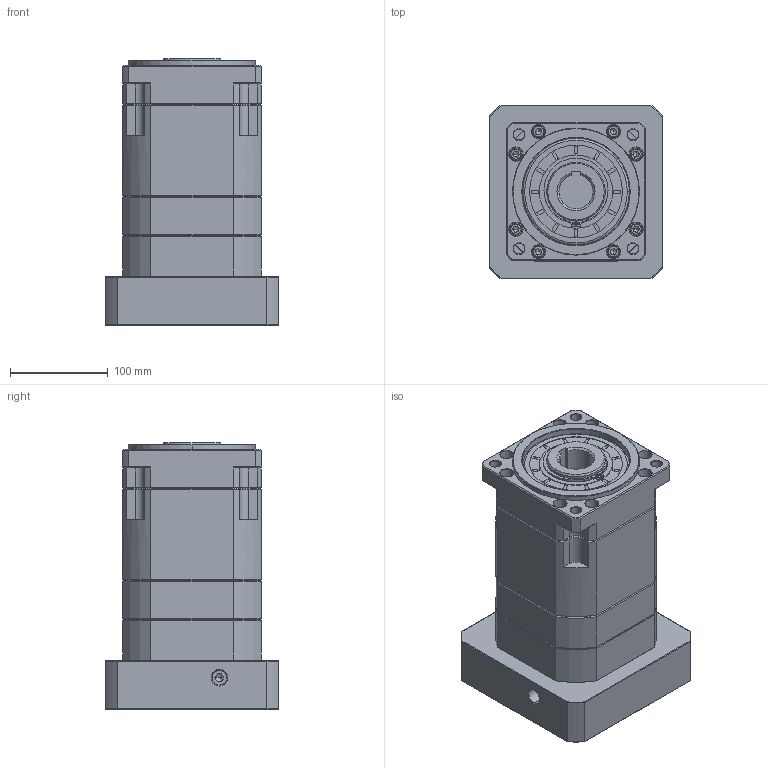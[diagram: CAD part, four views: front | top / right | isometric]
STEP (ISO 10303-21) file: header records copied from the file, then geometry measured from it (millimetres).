
FILE_DESCRIPTION (( 'STEP AP214' ), '1' );
FILE_NAME ('ZB142A-K35-L3-35-114.3-200-M12.step', '2023-03-17T10:50:41', ( '' ), ( '' ), 'SwSTEP 2.0', 'SolidWorks 2016', '' );
FILE_SCHEMA (( 'AUTOMOTIVE_DESIGN' ));
Length unit declared in the file: millimetre
Products named in the file (1): ZB142A-K35-L3-35-114.3-200-M12
Bounding box: 178 x 178 x 273.2 mm (x, y, z)
Volume: 4903985.2 mm3; surface area: 386291.7 mm2
Topology: 6 solids, 6 shells, 2161 faces, 5665 edges, 3610 vertices
Faces by surface type: plane 1018, cylinder 424, cone 393, bspline 306, torus 20
Entity records: 114804 total; most frequent: CARTESIAN_POINT 40039, ORIENTED_EDGE 11274, DIRECTION 9553, EDGE_CURVE 5637, VERTEX_POINT 3610, LINE 3511, VECTOR 3511, AXIS2_PLACEMENT_3D 3021
